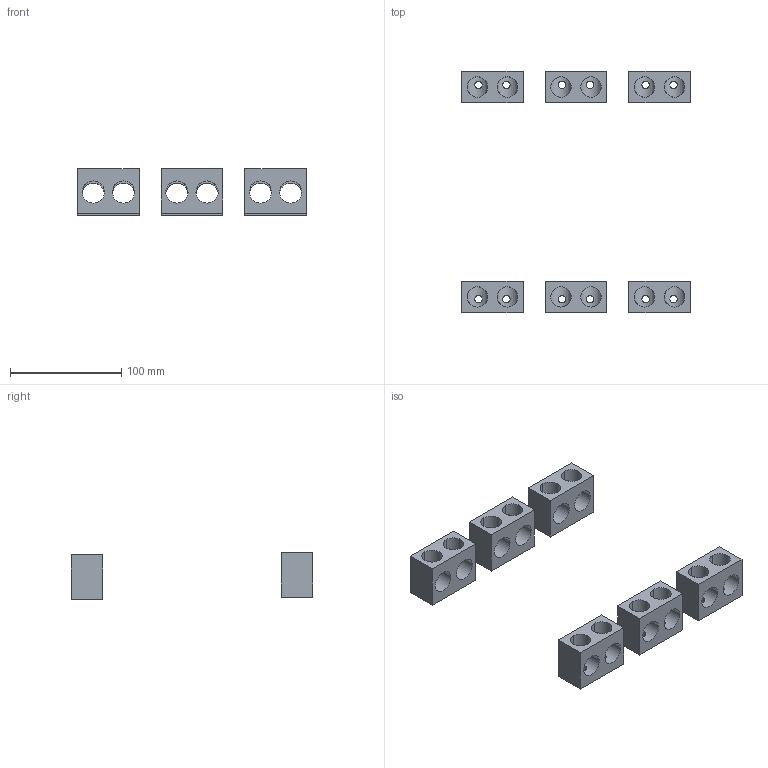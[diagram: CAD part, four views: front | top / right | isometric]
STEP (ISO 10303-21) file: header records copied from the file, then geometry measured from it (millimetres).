
FILE_DESCRIPTION (( 'STEP AP214' ), '1' );
FILE_NAME ('ÂÀ57-39 êîìïëåêò çàæèìîâ 2õ185 (êîëîäêà) (2).STEP', '2023-08-07T12:43:54', ( '' ), ( '' ), 'SwSTEP 2.0', 'SolidWorks 2018', '' );
FILE_SCHEMA (( 'AUTOMOTIVE_DESIGN' ));
Length unit declared in the file: millimetre
Products named in the file (1): ÂÀ57-39 êîìïëåêò çàæèìîâ 2õ185 (êîëîäêà) (2)
Bounding box: 205 x 216.4 x 42 mm (x, y, z)
Volume: 221329.6 mm3; surface area: 75959.5 mm2
Topology: 6 solids, 6 shells, 108 faces, 288 edges, 192 vertices
Faces by surface type: cylinder 72, plane 36
Entity records: 6683 total; most frequent: CARTESIAN_POINT 2569, ORIENTED_EDGE 576, DIRECTION 554, EDGE_CURVE 288, AXIS2_PLACEMENT_3D 205, VERTEX_POINT 192, EDGE_LOOP 180, LINE 144
